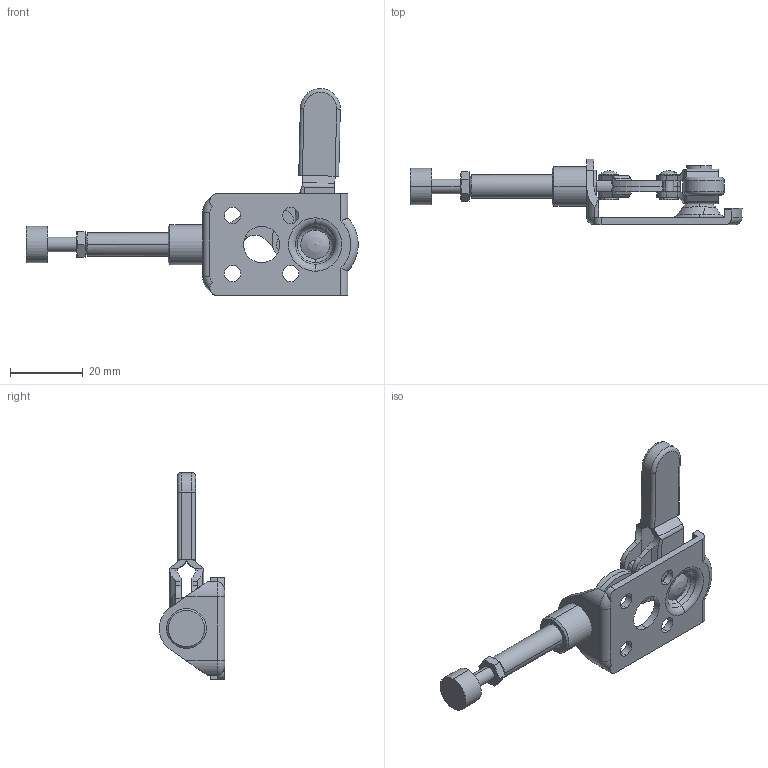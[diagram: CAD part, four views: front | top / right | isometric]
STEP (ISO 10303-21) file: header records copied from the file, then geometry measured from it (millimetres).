
FILE_DESCRIPTION (( 'STEP AP214' ), '1' );
FILE_NAME ('ISK-SL50L0-T1.STEP', '2024-06-24T01:27:21', ( '' ), ( '' ), 'SwSTEP 2.0', 'SolidWorks 2024', '' );
FILE_SCHEMA (( 'AUTOMOTIVE_DESIGN' ));
Length unit declared in the file: millimetre
Products named in the file (12): Coller; Arm; Grip; Rivet_Φ4×12; hexagon nut_3_jis_JIS B 1181 Hexagon nut - Class 3 Finished M4 --N; Handle; Rivet_Φ3×6; ISK-SL50L0-T1; Rubber bolt_M4×18; Link; Base; Guide
Assembly tree (13 placements, depth 2):
  ISK-SL50L0-T1
    Base
    Guide
    Arm
    Handle
    Link
    Rivet_Φ3×6  x3
    Coller
    Rivet_Φ4×12
    Grip
    Rubber bolt_M4×18
    hexagon nut_3_jis_JIS B 1181 Hexagon nut - Class 3 Finished M4 --N
Bounding box: 91.36 x 17.97 x 56.92 mm (x, y, z)
Volume: 8230.9 mm3; surface area: 11364.7 mm2
Topology: 15 solids, 15 shells, 304 faces, 738 edges, 473 vertices
Faces by surface type: cylinder 136, plane 113, cone 36, torus 13, sphere 4, bspline 2
Entity records: 9257 total; most frequent: CARTESIAN_POINT 1725, DIRECTION 1517, ORIENTED_EDGE 1376, EDGE_CURVE 688, AXIS2_PLACEMENT_3D 599, VERTEX_POINT 441, EDGE_LOOP 337, VECTOR 319
